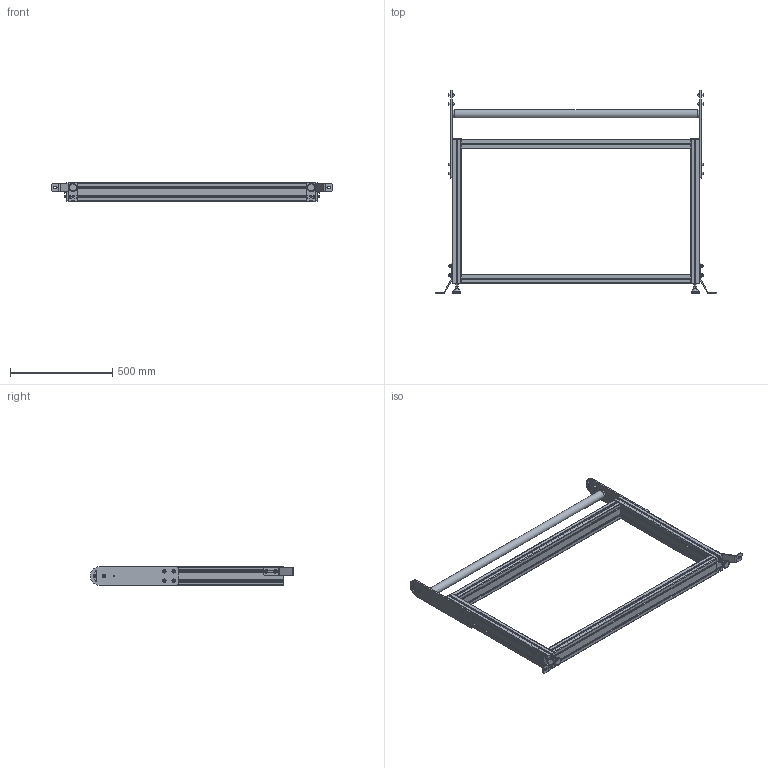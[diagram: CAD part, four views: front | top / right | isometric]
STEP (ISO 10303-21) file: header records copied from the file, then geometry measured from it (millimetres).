
FILE_DESCRIPTION (( 'STEP AP214' ), '1' );
FILE_NAME ('988-008-1200.STEP', '2022-10-10T14:14:26', ( '' ), ( '' ), 'SwSTEP 2.0', 'SolidWorks 2022', '' );
FILE_SCHEMA (( 'AUTOMOTIVE_DESIGN' ));
Length unit declared in the file: millimetre
Products named in the file (16): 910-100; 988-008-1200; CHC THE_910-052H; 935-055; 910-002_910-235; RONDELLE_910-111; 935-016; 987-017; 935-055SV; CHASSIS JAMBAGE TB100 1200_Défaut[Brut d''usinage]; 905-021; 988-007; 905-020; CHC M8X20 + RP8; 982-010-1200; EMBOUT_915-013
Assembly tree (28 placements, depth 4):
  988-008-1200
    CHASSIS JAMBAGE TB100 1200_Défaut[Brut d''usinage]
    935-055  x2
      935-055SV
      910-100
      910-002_910-235
    EMBOUT_915-013  x2
    935-016  x2
    988-007  x2
      987-017
      CHC M8X20 + RP8
        CHC THE_910-052H
        RONDELLE_910-111
      905-021
      905-020
    982-010-1200
Bounding box: 1376 x 995 x 90 mm (x, y, z)
Volume: 12929506.2 mm3; surface area: 2432196.9 mm2
Topology: 53 solids, 53 shells, 1129 faces, 2737 edges, 1744 vertices
Faces by surface type: plane 746, cylinder 221, cone 128, torus 24, sphere 8, bspline 2
Full cylindrical faces by diameter (mm): 6 x12, 6.8 x16, 7.3 x8, 7.98 x12, 8 x22, 8.4 x12, 8.5 x12, 9 x4, 13 x12, 16 x12, 17 x4, 34 x2, 40 x3
Entity records: 14783 total; most frequent: CARTESIAN_POINT 2582, DIRECTION 2328, ORIENTED_EDGE 2324, EDGE_CURVE 1162, LINE 952, VECTOR 952, VERTEX_POINT 790, AXIS2_PLACEMENT_3D 688
